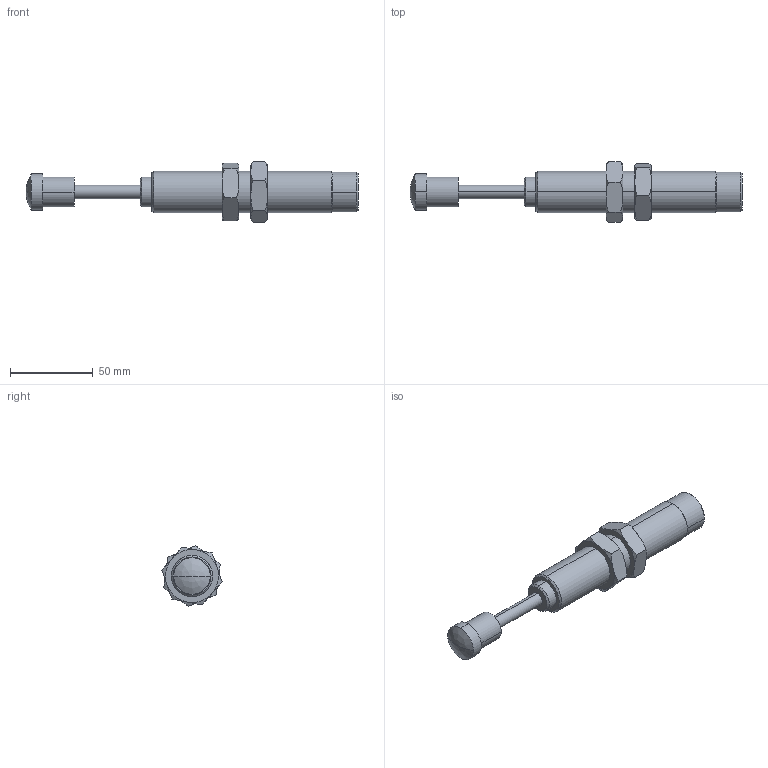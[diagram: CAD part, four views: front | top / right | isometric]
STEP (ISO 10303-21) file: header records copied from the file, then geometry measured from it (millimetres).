
FILE_DESCRIPTION (( 'STEP AP203' ), '1' );
FILE_NAME ('FSA-2540BB(CC)(CD).STEP', '2016-03-17T07:47:07', ( 'Sam Lin' ), ( '' ), 'SwSTEP 2.0', 'SolidWorks 2013', '' );
FILE_SCHEMA (( 'CONFIG_CONTROL_DESIGN' ));
Length unit declared in the file: metre
Products named in the file (3): FSA-2540BB(CC)(CD)_1; M25x1.5-10mm_1; FSA-2540BB(CC)(CD)
Assembly tree (3 placements, depth 2):
  FSA-2540BB(CC)(CD)
    FSA-2540BB(CC)(CD)_1
    M25x1.5-10mm_1  x2
Bounding box: 200.5 x 36.25 x 36.63 mm (x, y, z)
Volume: 80045.5 mm3; surface area: 19430.6 mm2
Topology: 3 solids, 3 shells, 71 faces, 154 edges, 91 vertices
Faces by surface type: bspline 26, plane 21, cylinder 16, cone 8
Entity records: 1993 total; most frequent: CARTESIAN_POINT 708, ORIENTED_EDGE 208, DIRECTION 190, EDGE_CURVE 104, AXIS2_PLACEMENT_3D 81, VERTEX_POINT 63, EDGE_LOOP 55, FACE_OUTER_BOUND 49
